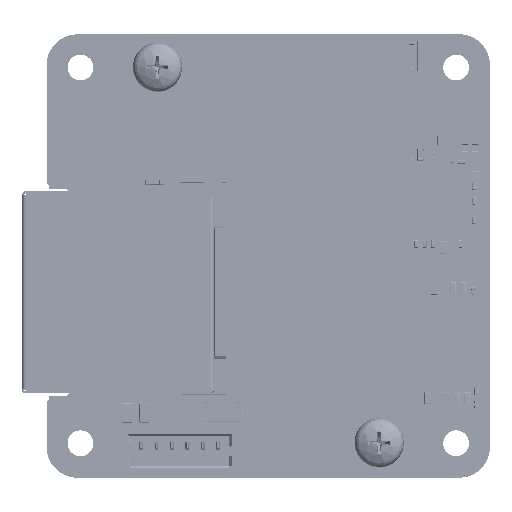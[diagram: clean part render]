
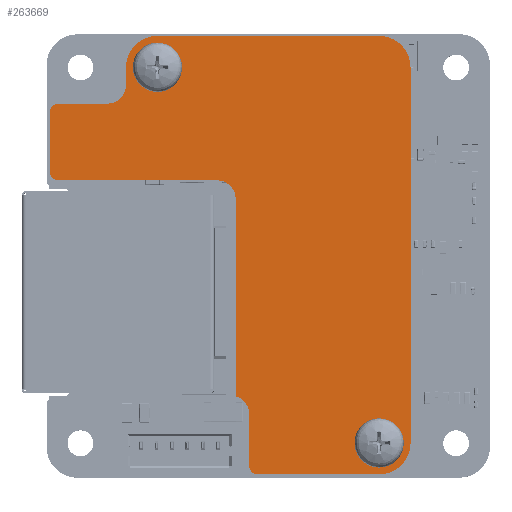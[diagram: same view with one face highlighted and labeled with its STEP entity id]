
A CAD part, top view. The second image highlights one B-rep face of the part: STEP entity #263669.
In plain terms, the highlighted planar face has unit normal (0, 0, 1).
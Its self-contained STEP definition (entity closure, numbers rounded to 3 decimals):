
#1062=FACE_BOUND('',#56508,.T.);
#1063=FACE_BOUND('',#56509,.T.);
#17669=CIRCLE('',#293334,0.7);
#17670=CIRCLE('',#293337,0.7);
#17671=CIRCLE('',#293340,1.499);
#17672=CIRCLE('',#293343,2.55);
#17673=CIRCLE('',#293346,2.55);
#17674=CIRCLE('',#293349,2.55);
#17675=CIRCLE('',#293352,0.7);
#17676=CIRCLE('',#293355,1.501);
#17677=CIRCLE('',#293358,1.499);
#17678=CIRCLE('',#293361,1.15);
#17679=CIRCLE('',#293363,1.15);
#39875=FACE_OUTER_BOUND('',#56507,.T.);
#56507=EDGE_LOOP('',(#224615,#224616,#224617,#224618,#224619,#224620,#224621,
#224622,#224623,#224624,#224625,#224626,#224627,#224628,#224629,#224630,
#224631,#224632));
#56508=EDGE_LOOP('',(#224633));
#56509=EDGE_LOOP('',(#224634));
#78378=LINE('',#445267,#100233);
#78381=LINE('',#445275,#100236);
#78384=LINE('',#445283,#100239);
#78387=LINE('',#445291,#100242);
#78390=LINE('',#445299,#100245);
#78393=LINE('',#445307,#100248);
#78396=LINE('',#445315,#100251);
#78399=LINE('',#445323,#100254);
#78402=LINE('',#445330,#100257);
#100233=VECTOR('',#372914,1.);
#100236=VECTOR('',#372923,1.);
#100239=VECTOR('',#372932,1.);
#100242=VECTOR('',#372941,1.);
#100245=VECTOR('',#372950,1.);
#100248=VECTOR('',#372959,1.);
#100251=VECTOR('',#372968,1.);
#100254=VECTOR('',#372977,1.);
#100257=VECTOR('',#372986,1.);
#120075=VERTEX_POINT('',#445260);
#120076=VERTEX_POINT('',#445262);
#120077=VERTEX_POINT('',#445266);
#120078=VERTEX_POINT('',#445270);
#120079=VERTEX_POINT('',#445274);
#120080=VERTEX_POINT('',#445278);
#120081=VERTEX_POINT('',#445282);
#120082=VERTEX_POINT('',#445286);
#120083=VERTEX_POINT('',#445290);
#120084=VERTEX_POINT('',#445294);
#120085=VERTEX_POINT('',#445298);
#120086=VERTEX_POINT('',#445302);
#120087=VERTEX_POINT('',#445306);
#120088=VERTEX_POINT('',#445310);
#120089=VERTEX_POINT('',#445314);
#120090=VERTEX_POINT('',#445318);
#120091=VERTEX_POINT('',#445322);
#120092=VERTEX_POINT('',#445326);
#120093=VERTEX_POINT('',#445332);
#120094=VERTEX_POINT('',#445336);
#155093=EDGE_CURVE('',#120075,#120076,#17669,.T.);
#155095=EDGE_CURVE('',#120076,#120077,#78378,.T.);
#155097=EDGE_CURVE('',#120077,#120078,#17670,.T.);
#155099=EDGE_CURVE('',#120078,#120079,#78381,.T.);
#155101=EDGE_CURVE('',#120079,#120080,#17671,.T.);
#155103=EDGE_CURVE('',#120080,#120081,#78384,.T.);
#155105=EDGE_CURVE('',#120081,#120082,#17672,.T.);
#155107=EDGE_CURVE('',#120082,#120083,#78387,.T.);
#155109=EDGE_CURVE('',#120083,#120084,#17673,.T.);
#155111=EDGE_CURVE('',#120084,#120085,#78390,.T.);
#155113=EDGE_CURVE('',#120085,#120086,#17674,.T.);
#155115=EDGE_CURVE('',#120086,#120087,#78393,.T.);
#155117=EDGE_CURVE('',#120087,#120088,#17675,.T.);
#155119=EDGE_CURVE('',#120088,#120089,#78396,.T.);
#155121=EDGE_CURVE('',#120089,#120090,#17676,.T.);
#155123=EDGE_CURVE('',#120090,#120091,#78399,.T.);
#155125=EDGE_CURVE('',#120091,#120092,#17677,.T.);
#155127=EDGE_CURVE('',#120092,#120075,#78402,.T.);
#155128=EDGE_CURVE('',#120093,#120093,#17678,.T.);
#155130=EDGE_CURVE('',#120094,#120094,#17679,.T.);
#224615=ORIENTED_EDGE('',*,*,#155093,.F.);
#224616=ORIENTED_EDGE('',*,*,#155127,.F.);
#224617=ORIENTED_EDGE('',*,*,#155125,.F.);
#224618=ORIENTED_EDGE('',*,*,#155123,.F.);
#224619=ORIENTED_EDGE('',*,*,#155121,.F.);
#224620=ORIENTED_EDGE('',*,*,#155119,.F.);
#224621=ORIENTED_EDGE('',*,*,#155117,.F.);
#224622=ORIENTED_EDGE('',*,*,#155115,.F.);
#224623=ORIENTED_EDGE('',*,*,#155113,.F.);
#224624=ORIENTED_EDGE('',*,*,#155111,.F.);
#224625=ORIENTED_EDGE('',*,*,#155109,.F.);
#224626=ORIENTED_EDGE('',*,*,#155107,.F.);
#224627=ORIENTED_EDGE('',*,*,#155105,.F.);
#224628=ORIENTED_EDGE('',*,*,#155103,.F.);
#224629=ORIENTED_EDGE('',*,*,#155101,.F.);
#224630=ORIENTED_EDGE('',*,*,#155099,.F.);
#224631=ORIENTED_EDGE('',*,*,#155097,.F.);
#224632=ORIENTED_EDGE('',*,*,#155095,.F.);
#224633=ORIENTED_EDGE('',*,*,#155128,.F.);
#224634=ORIENTED_EDGE('',*,*,#155130,.F.);
#232081=PLANE('',#293364);
#263669=ADVANCED_FACE('',(#39875,#1062,#1063),#232081,.F.);
#293334=AXIS2_PLACEMENT_3D('',#445263,#372909,#372910);
#293337=AXIS2_PLACEMENT_3D('',#445271,#372918,#372919);
#293340=AXIS2_PLACEMENT_3D('',#445279,#372927,#372928);
#293343=AXIS2_PLACEMENT_3D('',#445287,#372936,#372937);
#293346=AXIS2_PLACEMENT_3D('',#445295,#372945,#372946);
#293349=AXIS2_PLACEMENT_3D('',#445303,#372954,#372955);
#293352=AXIS2_PLACEMENT_3D('',#445311,#372963,#372964);
#293355=AXIS2_PLACEMENT_3D('',#445319,#372972,#372973);
#293358=AXIS2_PLACEMENT_3D('',#445327,#372981,#372982);
#293361=AXIS2_PLACEMENT_3D('',#445333,#372989,#372990);
#293363=AXIS2_PLACEMENT_3D('',#445337,#372994,#372995);
#293364=AXIS2_PLACEMENT_3D('',#445339,#372997,#372998);
#372909=DIRECTION('center_axis',(0.,0.,-1.));
#372910=DIRECTION('ref_axis',(0.,-1.,0.));
#372914=DIRECTION('',(0.,1.,0.));
#372918=DIRECTION('center_axis',(0.,0.,-1.));
#372919=DIRECTION('ref_axis',(-1.,0.,0.));
#372923=DIRECTION('',(1.,0.,0.));
#372927=DIRECTION('center_axis',(0.,0.,1.));
#372928=DIRECTION('ref_axis',(-0.001,-1.,
0.));
#372932=DIRECTION('',(0.,1.,0.));
#372936=DIRECTION('center_axis',(0.,0.,-1.));
#372937=DIRECTION('ref_axis',(-1.,0.,0.));
#372941=DIRECTION('',(1.,0.,0.));
#372945=DIRECTION('center_axis',(0.,0.,-1.));
#372946=DIRECTION('ref_axis',(0.,1.,0.));
#372950=DIRECTION('',(0.,-1.,0.));
#372954=DIRECTION('center_axis',(0.,0.,-1.));
#372955=DIRECTION('ref_axis',(1.,0.,0.));
#372959=DIRECTION('',(-1.,0.,0.));
#372963=DIRECTION('center_axis',(0.,0.,-1.));
#372964=DIRECTION('ref_axis',(0.,-1.,0.));
#372968=DIRECTION('',(0.,1.,0.));
#372972=DIRECTION('center_axis',(0.,0.,1.));
#372973=DIRECTION('ref_axis',(1.,0.,0.));
#372977=DIRECTION('',(0.,1.,0.));
#372981=DIRECTION('center_axis',(0.,0.,1.));
#372982=DIRECTION('ref_axis',(1.,-0.001,0.));
#372986=DIRECTION('',(-1.,0.,0.));
#372989=DIRECTION('center_axis',(0.,0.,1.));
#372990=DIRECTION('ref_axis',(1.,0.,0.));
#372994=DIRECTION('center_axis',(0.,0.,1.));
#372995=DIRECTION('ref_axis',(1.,0.,0.));
#372997=DIRECTION('center_axis',(0.,0.,-1.));
#372998=DIRECTION('ref_axis',(-1.,0.,0.));
#445260=CARTESIAN_POINT('',(-26.05,21.325,0.));
#445262=CARTESIAN_POINT('',(-26.75,22.025,0.));
#445263=CARTESIAN_POINT('Origin',(-26.05,22.025,0.));
#445266=CARTESIAN_POINT('',(-26.75,26.85,0.));
#445267=CARTESIAN_POINT('',(-26.75,22.025,0.));
#445270=CARTESIAN_POINT('',(-26.05,27.55,0.));
#445271=CARTESIAN_POINT('Origin',(-26.05,26.85,0.));
#445274=CARTESIAN_POINT('',(-22.05,27.55,0.));
#445275=CARTESIAN_POINT('',(-26.05,27.55,0.));
#445278=CARTESIAN_POINT('',(-20.55,29.05,0.));
#445279=CARTESIAN_POINT('Origin',(-22.049,29.049,0.));
#445282=CARTESIAN_POINT('',(-20.55,30.5,0.));
#445283=CARTESIAN_POINT('',(-20.55,29.05,0.));
#445286=CARTESIAN_POINT('',(-18.,33.05,0.));
#445287=CARTESIAN_POINT('Origin',(-18.,30.5,0.));
#445290=CARTESIAN_POINT('',(0.,33.05,0.));
#445291=CARTESIAN_POINT('',(-18.,33.05,0.));
#445294=CARTESIAN_POINT('',(2.55,30.5,0.));
#445295=CARTESIAN_POINT('Origin',(0.,30.5,0.));
#445298=CARTESIAN_POINT('',(2.55,0.,0.));
#445299=CARTESIAN_POINT('',(2.55,30.5,0.));
#445302=CARTESIAN_POINT('',(0.,-2.55,0.));
#445303=CARTESIAN_POINT('Origin',(0.,0.,
0.));
#445306=CARTESIAN_POINT('',(-9.85,-2.55,0.));
#445307=CARTESIAN_POINT('',(0.,-2.55,0.));
#445310=CARTESIAN_POINT('',(-10.55,-1.85,0.));
#445311=CARTESIAN_POINT('Origin',(-9.85,-1.85,0.));
#445314=CARTESIAN_POINT('',(-10.55,2.35,0.));
#445315=CARTESIAN_POINT('',(-10.55,-1.85,0.));
#445318=CARTESIAN_POINT('',(-11.65,3.796,0.));
#445319=CARTESIAN_POINT('Origin',(-12.051,2.35,0.));
#445322=CARTESIAN_POINT('',(-11.65,19.825,0.));
#445323=CARTESIAN_POINT('',(-11.65,3.796,0.));
#445326=CARTESIAN_POINT('',(-13.15,21.325,0.));
#445327=CARTESIAN_POINT('Origin',(-13.149,19.826,0.));
#445330=CARTESIAN_POINT('',(-13.15,21.325,0.));
#445332=CARTESIAN_POINT('',(-19.15,30.5,0.));
#445333=CARTESIAN_POINT('Origin',(-18.,30.5,0.));
#445336=CARTESIAN_POINT('',(-1.15,0.,0.));
#445337=CARTESIAN_POINT('Origin',(0.,0.,0.));
#445339=CARTESIAN_POINT('Origin',(-8.943,17.735,0.));
